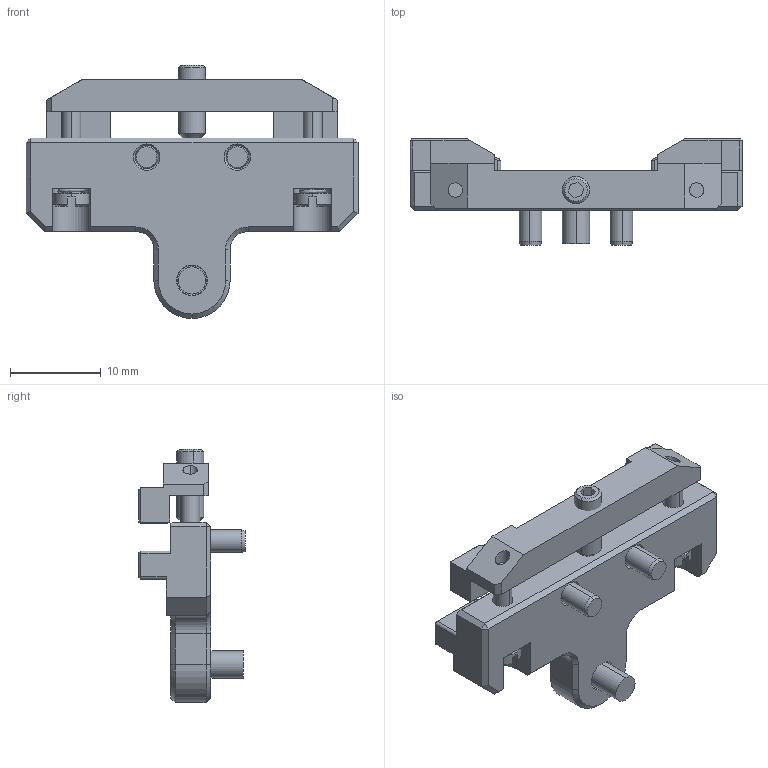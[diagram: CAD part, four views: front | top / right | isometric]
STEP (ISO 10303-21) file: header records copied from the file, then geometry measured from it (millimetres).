
FILE_DESCRIPTION (( 'STEP AP203' ), '1' );
FILE_NAME ('CSC1-3TR.STEP', '2024-03-28T03:19:50', ( '' ), ( '' ), 'SwSTEP 2.0', 'SolidWorks 2021', '' );
FILE_SCHEMA (( 'CONFIG_CONTROL_DESIGN' ));
Length unit declared in the file: millimetre
Products named in the file (1): CSC1-3TR
Bounding box: 36.6 x 11.7 x 27.9 mm (x, y, z)
Surface area: 2995.9 mm2 (no closed solid volume)
Topology: 0 solids, 13 shells, 331 faces, 1144 edges, 809 vertices
Faces by surface type: plane 212, cylinder 48, bspline 41, cone 28, sphere 2
Entity records: 18489 total; most frequent: CARTESIAN_POINT 9012, ORIENTED_EDGE 1872, DIRECTION 1732, EDGE_CURVE 1144, VECTOR 854, LINE 854, VERTEX_POINT 809, AXIS2_PLACEMENT_3D 439
